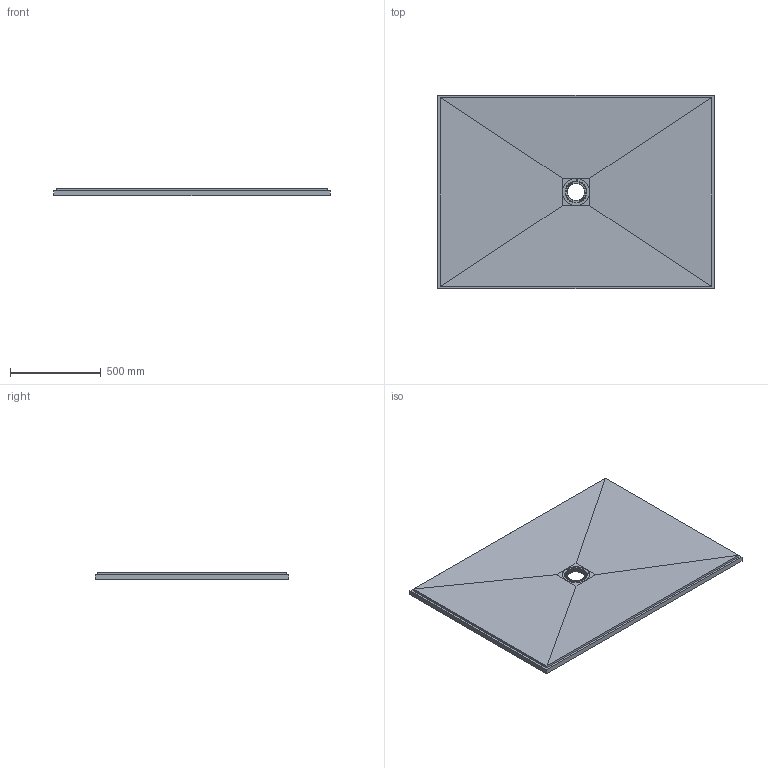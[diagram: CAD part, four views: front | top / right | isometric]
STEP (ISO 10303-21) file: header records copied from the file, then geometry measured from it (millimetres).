
FILE_DESCRIPTION(/* description */ ('Fertigteil'),/* implementation_level */ '2;1');
FILE_NAME(/* name */ 'C:\Users\fuser-vault-job\AppData\Local\Temp\MuM_u0j01lak.5cq\D-000001863.iam_.step',/* time_stamp */ '2022-07-14T10:32:25+02:00',/* author */ ('ds'),/* organization */ (''),/* preprocessor_version */ 'ST-DEVELOPER v18.1',/* originating_system */ 'Autodesk Inventor 2020',/* authorisation */ '');
FILE_SCHEMA (('AUTOMOTIVE_DESIGN { 1 0 10303 214 3 1 1 }'));
Products named in the file (3): 073740064; 073740064_1; DD0000003
Assembly tree (2 placements, depth 2):
  073740064
    073740064_1
    DD0000003
Bounding box: 1524 x 1066.8 x 40 mm (x, y, z)
Volume: 53594473.5 mm3; surface area: 3483509.4 mm2
Topology: 2 solids, 2 shells, 743 faces, 2186 edges, 1467 vertices
Faces by surface type: bspline 372, torus 115, cone 78, cylinder 76, plane 68, sphere 34
Full cylindrical faces by diameter (mm): 6 x3, 151 x1
Entity records: 63131 total; most frequent: CARTESIAN_POINT 44887, ORIENTED_EDGE 4326, DIRECTION 3299, EDGE_CURVE 2163, VERTEX_POINT 1458, AXIS2_PLACEMENT_3D 1339, CIRCLE 813, EDGE_LOOP 803
